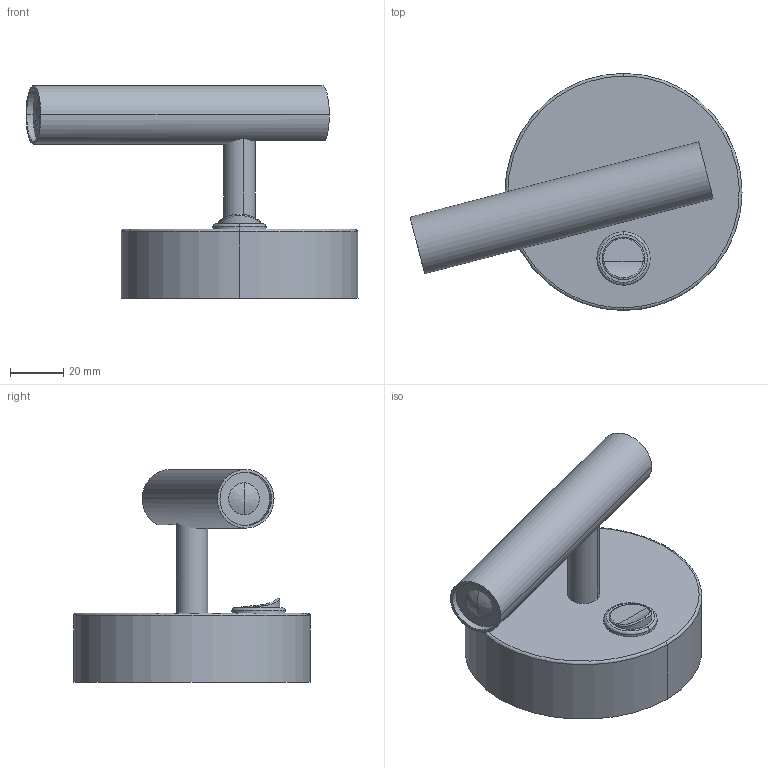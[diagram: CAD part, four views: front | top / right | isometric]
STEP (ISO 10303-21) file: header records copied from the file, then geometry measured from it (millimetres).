
FILE_DESCRIPTION (( 'STEP AP214' ), '1' );
FILE_NAME ('4419_Flat.STEP', '2017-11-27T10:48:09', ( '' ), ( '' ), 'SwSTEP 2.0', 'SolidWorks 2015', '' );
FILE_SCHEMA (( 'AUTOMOTIVE_DESIGN' ));
Length unit declared in the file: millimetre
Products named in the file (7): rotul; interruptor cable; boton exterior; tubo led; florón flat solo lector; aro interruptor; 4419_Flat
Assembly tree (6 placements, depth 2):
  4419_Flat
    florón flat solo lector
    rotul
    tubo led
    aro interruptor
    boton exterior
    interruptor cable
Bounding box: 124.69 x 89 x 79.96 mm (x, y, z)
Volume: 28413 mm3; surface area: 45322.5 mm2
Topology: 6 solids, 6 shells, 98 faces, 232 edges, 150 vertices
Faces by surface type: cylinder 43, plane 43, bspline 12
Entity records: 4410 total; most frequent: CARTESIAN_POINT 1879, DIRECTION 485, ORIENTED_EDGE 456, EDGE_CURVE 228, AXIS2_PLACEMENT_3D 187, VERTEX_POINT 150, EDGE_LOOP 116, LINE 111
